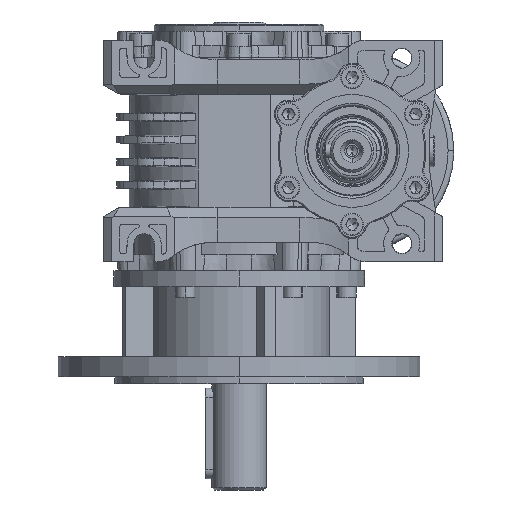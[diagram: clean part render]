
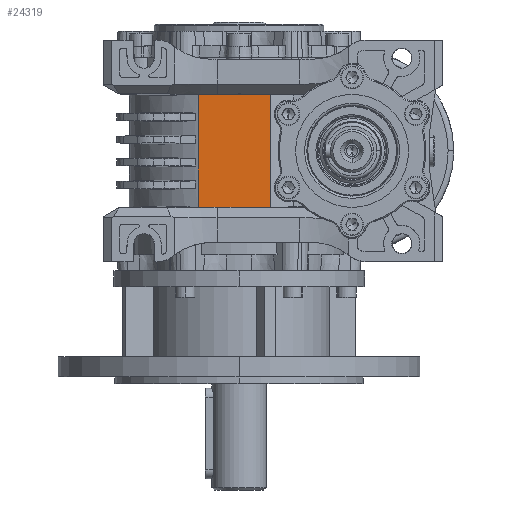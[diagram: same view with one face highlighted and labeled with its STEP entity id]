
A CAD part, left-side view. The second image highlights one B-rep face of the part: STEP entity #24319.
In plain terms, the highlighted planar face has unit normal (-1, 0, 0).
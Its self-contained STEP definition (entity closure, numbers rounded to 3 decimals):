
#3812 = DIRECTION ( 'NONE',  ( 0., -1., 0. ) ) ;
#4440 = ORIENTED_EDGE ( 'NONE', *, *, #14837, .T. ) ;
#12548 = ORIENTED_EDGE ( 'NONE', *, *, #97805, .F. ) ;
#14837 = EDGE_CURVE ( 'NONE', #113199, #96333, #30507, .T. ) ;
#16018 = ORIENTED_EDGE ( 'NONE', *, *, #112398, .F. ) ;
#24319 = ADVANCED_FACE ( 'NONE', ( #111475 ), #110867, .T. ) ;
#30507 = LINE ( 'NONE', #51243, #108671 ) ;
#39641 = CARTESIAN_POINT ( 'NONE',  ( -46.5, 18., -24.94 ) ) ;
#41770 = CARTESIAN_POINT ( 'NONE',  ( -46.5, 18., -57.188 ) ) ;
#44041 = CARTESIAN_POINT ( 'NONE',  ( -46.5, 18., -57.188 ) ) ;
#45911 = EDGE_CURVE ( 'NONE', #96333, #88855, #103646, .T. ) ;
#47545 = CARTESIAN_POINT ( 'NONE',  ( -46.5, 18., 24.94 ) ) ;
#50425 = CARTESIAN_POINT ( 'NONE',  ( -46.5, 18., -24.94 ) ) ;
#51199 = LINE ( 'NONE', #41770, #88245 ) ;
#51243 = CARTESIAN_POINT ( 'NONE',  ( -46.5, -14., -57.188 ) ) ;
#52633 = VECTOR ( 'NONE', #56947, 1000. ) ;
#54528 = VERTEX_POINT ( 'NONE', #39641 ) ;
#55128 = DIRECTION ( 'NONE',  ( 0., 1., 0. ) ) ;
#56947 = DIRECTION ( 'NONE',  ( 0., 1., 0. ) ) ;
#60212 = CARTESIAN_POINT ( 'NONE',  ( -46.5, -14., -24.94 ) ) ;
#82155 = CARTESIAN_POINT ( 'NONE',  ( -46.5, -14., 24.94 ) ) ;
#85539 = EDGE_LOOP ( 'NONE', ( #12548, #16018, #4440, #93456 ) ) ;
#87780 = DIRECTION ( 'NONE',  ( 0., 0., 1. ) ) ;
#88245 = VECTOR ( 'NONE', #87780, 1000. ) ;
#88855 = VERTEX_POINT ( 'NONE', #47545 ) ;
#92955 = CARTESIAN_POINT ( 'NONE',  ( -46.5, 18., 24.94 ) ) ;
#93456 = ORIENTED_EDGE ( 'NONE', *, *, #45911, .T. ) ;
#96333 = VERTEX_POINT ( 'NONE', #82155 ) ;
#97805 = EDGE_CURVE ( 'NONE', #54528, #88855, #51199, .T. ) ;
#102002 = DIRECTION ( 'NONE',  ( -1., 0., 0. ) ) ;
#102624 = VECTOR ( 'NONE', #55128, 1000. ) ;
#103646 = LINE ( 'NONE', #92955, #102624 ) ;
#108425 = LINE ( 'NONE', #50425, #52633 ) ;
#108671 = VECTOR ( 'NONE', #118086, 1000. ) ;
#110867 = PLANE ( 'NONE',  #124437 ) ;
#111475 = FACE_OUTER_BOUND ( 'NONE', #85539, .T. ) ;
#112398 = EDGE_CURVE ( 'NONE', #113199, #54528, #108425, .T. ) ;
#113199 = VERTEX_POINT ( 'NONE', #60212 ) ;
#118086 = DIRECTION ( 'NONE',  ( 0., 0., 1. ) ) ;
#124437 = AXIS2_PLACEMENT_3D ( 'NONE', #44041, #102002, #3812 ) ;
